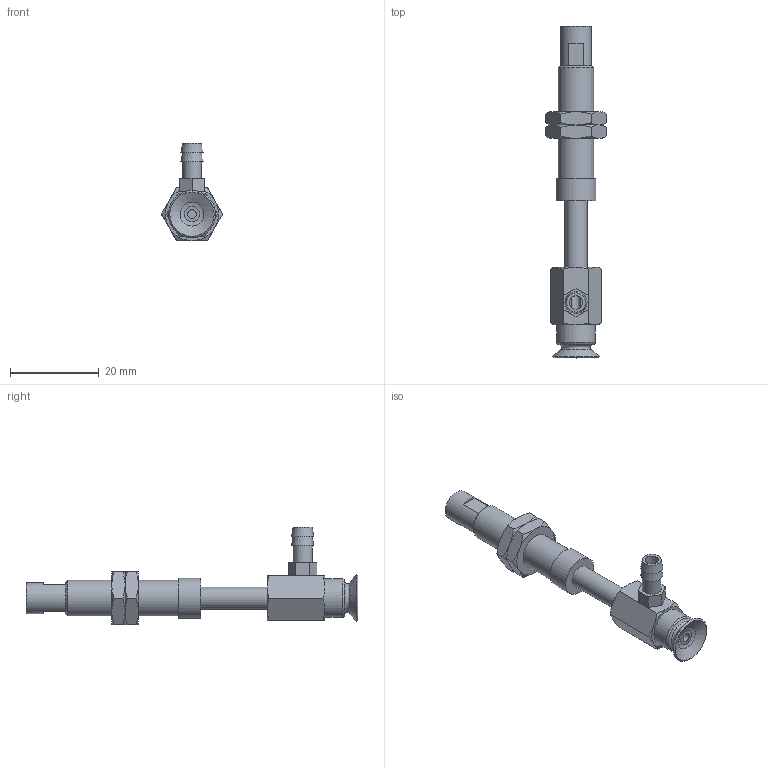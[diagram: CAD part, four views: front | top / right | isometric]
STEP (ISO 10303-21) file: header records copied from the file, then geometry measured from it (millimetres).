
FILE_DESCRIPTION(('STEP AP203'),'1');
FILE_NAME('-T.stp','2025-04-09T06:55:25',(' '),(' '),'Spatial InterOp 3D',' ',' ');
FILE_SCHEMA(('CONFIG_CONTROL_DESIGN'));
Length unit declared in the file: millimetre
Products named in the file (7): BNABPFYS-10A-15-※-T; CONNECTOR-10A-15; Nut-10A-15-s; NAPFTS-10A-15-FBODY; NAPFTS-10A-15-MBODY; BPFG-10A-※; T
Assembly tree (7 placements, depth 2):
  BNABPFYS-10A-15-※-T
    CONNECTOR-10A-15
    Nut-10A-15-s  x2
    NAPFTS-10A-15-FBODY
    NAPFTS-10A-15-MBODY
    BPFG-10A-※
    T
Bounding box: 13.86 x 75 x 22 mm (x, y, z)
Volume: 4105.6 mm3; surface area: 5193 mm2
Topology: 7 solids, 7 shells, 147 faces, 305 edges, 186 vertices
Faces by surface type: plane 64, cone 54, cylinder 20, torus 8, bspline 1
Full cylindrical faces by diameter (mm): 2 x2, 3 x1, 4 x2, 4.134 x2, 4.3 x1, 5 x4, 6 x2, 7 x1, 7.188 x2, 8 x1, 8.7 x1, 9 x1
Entity records: 3613 total; most frequent: CARTESIAN_POINT 863, DIRECTION 508, ORIENTED_EDGE 412, AXIS2_PLACEMENT_3D 225, EDGE_CURVE 206, EDGE_LOOP 192, FACE_OUTER_BOUND 152, VERTEX_POINT 150
